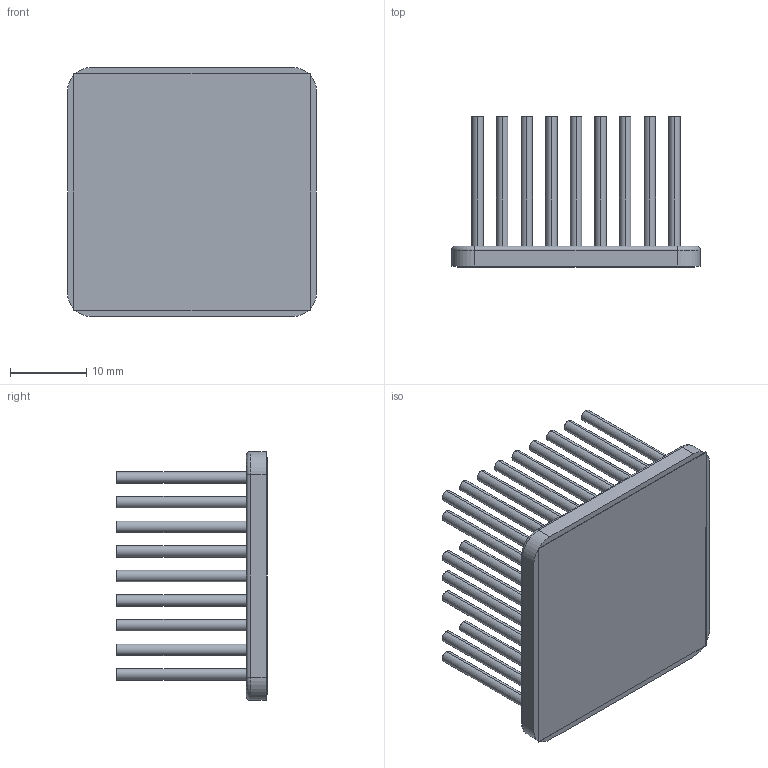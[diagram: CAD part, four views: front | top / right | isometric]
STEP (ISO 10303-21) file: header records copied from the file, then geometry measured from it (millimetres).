
FILE_DESCRIPTION (( 'STEP AP214' ), '1' );
FILE_NAME ('INM33002-20P-2.6.STEP', '2023-03-02T20:08:24', ( '' ), ( '' ), 'SwSTEP 2.0', 'SolidWorks 2020', '' );
FILE_SCHEMA (( 'AUTOMOTIVE_DESIGN' ));
Length unit declared in the file: inch
Products named in the file (1): INM33002-20P-2.6
Bounding box: 32.6 x 19.73 x 32.6 mm (x, y, z)
Volume: 5051.3 mm3; surface area: 10194.1 mm2
Topology: 2 solids, 2 shells, 243 faces, 490 edges, 324 vertices
Faces by surface type: cylinder 154, plane 85, torus 4
Entity records: 9702 total; most frequent: DIRECTION 1290, CARTESIAN_POINT 1058, ORIENTED_EDGE 980, AXIS2_PLACEMENT_3D 556, EDGE_CURVE 490, VERTEX_POINT 324, EDGE_LOOP 316, CIRCLE 312
